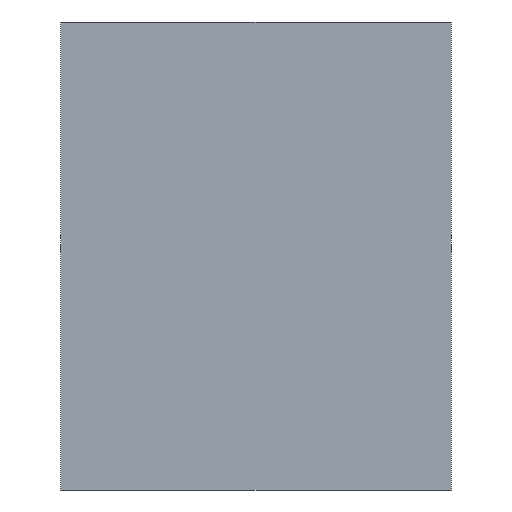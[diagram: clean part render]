
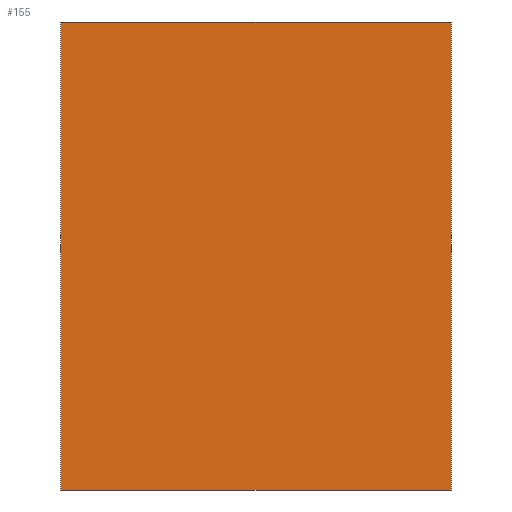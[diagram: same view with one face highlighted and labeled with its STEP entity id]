
A CAD part, front view. The second image highlights one B-rep face of the part: STEP entity #155.
In plain terms, the highlighted planar face has unit normal (0, -1, 0).
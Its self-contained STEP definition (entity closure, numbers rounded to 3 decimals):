
#39 = EDGE_CURVE('',#40,#42,#44,.T.);
#40 = VERTEX_POINT('',#41);
#41 = CARTESIAN_POINT('',(-19.,-33.9,23.75));
#42 = VERTEX_POINT('',#43);
#43 = CARTESIAN_POINT('',(-19.,-33.9,69.25));
#44 = SURFACE_CURVE('',#45,(#49,#61),.PCURVE_S1.);
#45 = LINE('',#46,#47);
#46 = CARTESIAN_POINT('',(-19.,-33.9,23.75));
#47 = VECTOR('',#48,1.);
#48 = DIRECTION('',(0.,0.,1.));
#49 = PCURVE('',#50,#55);
#50 = PLANE('',#51);
#51 = AXIS2_PLACEMENT_3D('',#52,#53,#54);
#52 = CARTESIAN_POINT('',(-19.,-33.9,23.75));
#53 = DIRECTION('',(1.,0.,0.));
#54 = DIRECTION('',(0.,0.,1.));
#55 = DEFINITIONAL_REPRESENTATION('',(#56),#60);
#56 = LINE('',#57,#58);
#57 = CARTESIAN_POINT('',(0.,0.));
#58 = VECTOR('',#59,1.);
#59 = DIRECTION('',(1.,0.));
#60 = ( GEOMETRIC_REPRESENTATION_CONTEXT(2) 
PARAMETRIC_REPRESENTATION_CONTEXT() REPRESENTATION_CONTEXT('2D SPACE',''
  ) );
#61 = PCURVE('',#62,#67);
#62 = PLANE('',#63);
#63 = AXIS2_PLACEMENT_3D('',#64,#65,#66);
#64 = CARTESIAN_POINT('',(-19.,-33.9,23.75));
#65 = DIRECTION('',(0.,1.,0.));
#66 = DIRECTION('',(0.,0.,1.));
#67 = DEFINITIONAL_REPRESENTATION('',(#68),#72);
#68 = LINE('',#69,#70);
#69 = CARTESIAN_POINT('',(0.,0.));
#70 = VECTOR('',#71,1.);
#71 = DIRECTION('',(1.,0.));
#72 = ( GEOMETRIC_REPRESENTATION_CONTEXT(2) 
PARAMETRIC_REPRESENTATION_CONTEXT() REPRESENTATION_CONTEXT('2D SPACE',''
  ) );
#90 = PLANE('',#91);
#91 = AXIS2_PLACEMENT_3D('',#92,#93,#94);
#92 = CARTESIAN_POINT('',(-19.,-33.9,23.75));
#93 = DIRECTION('',(0.,0.,1.));
#94 = DIRECTION('',(1.,0.,0.));
#144 = PLANE('',#145);
#145 = AXIS2_PLACEMENT_3D('',#146,#147,#148);
#146 = CARTESIAN_POINT('',(-19.,-33.9,69.25));
#147 = DIRECTION('',(0.,0.,1.));
#148 = DIRECTION('',(1.,0.,0.));
#155 = ADVANCED_FACE('',(#156),#62,.F.);
#156 = FACE_BOUND('',#157,.F.);
#157 = EDGE_LOOP('',(#158,#181,#182,#205));
#158 = ORIENTED_EDGE('',*,*,#159,.F.);
#159 = EDGE_CURVE('',#40,#160,#162,.T.);
#160 = VERTEX_POINT('',#161);
#161 = CARTESIAN_POINT('',(19.,-33.9,23.75));
#162 = SURFACE_CURVE('',#163,(#167,#174),.PCURVE_S1.);
#163 = LINE('',#164,#165);
#164 = CARTESIAN_POINT('',(-19.,-33.9,23.75));
#165 = VECTOR('',#166,1.);
#166 = DIRECTION('',(1.,0.,0.));
#167 = PCURVE('',#62,#168);
#168 = DEFINITIONAL_REPRESENTATION('',(#169),#173);
#169 = LINE('',#170,#171);
#170 = CARTESIAN_POINT('',(0.,0.));
#171 = VECTOR('',#172,1.);
#172 = DIRECTION('',(0.,1.));
#173 = ( GEOMETRIC_REPRESENTATION_CONTEXT(2) 
PARAMETRIC_REPRESENTATION_CONTEXT() REPRESENTATION_CONTEXT('2D SPACE',''
  ) );
#174 = PCURVE('',#90,#175);
#175 = DEFINITIONAL_REPRESENTATION('',(#176),#180);
#176 = LINE('',#177,#178);
#177 = CARTESIAN_POINT('',(0.,0.));
#178 = VECTOR('',#179,1.);
#179 = DIRECTION('',(1.,0.));
#180 = ( GEOMETRIC_REPRESENTATION_CONTEXT(2) 
PARAMETRIC_REPRESENTATION_CONTEXT() REPRESENTATION_CONTEXT('2D SPACE',''
  ) );
#181 = ORIENTED_EDGE('',*,*,#39,.T.);
#182 = ORIENTED_EDGE('',*,*,#183,.T.);
#183 = EDGE_CURVE('',#42,#184,#186,.T.);
#184 = VERTEX_POINT('',#185);
#185 = CARTESIAN_POINT('',(19.,-33.9,69.25));
#186 = SURFACE_CURVE('',#187,(#191,#198),.PCURVE_S1.);
#187 = LINE('',#188,#189);
#188 = CARTESIAN_POINT('',(-19.,-33.9,69.25));
#189 = VECTOR('',#190,1.);
#190 = DIRECTION('',(1.,0.,0.));
#191 = PCURVE('',#62,#192);
#192 = DEFINITIONAL_REPRESENTATION('',(#193),#197);
#193 = LINE('',#194,#195);
#194 = CARTESIAN_POINT('',(45.5,0.));
#195 = VECTOR('',#196,1.);
#196 = DIRECTION('',(0.,1.));
#197 = ( GEOMETRIC_REPRESENTATION_CONTEXT(2) 
PARAMETRIC_REPRESENTATION_CONTEXT() REPRESENTATION_CONTEXT('2D SPACE',''
  ) );
#198 = PCURVE('',#144,#199);
#199 = DEFINITIONAL_REPRESENTATION('',(#200),#204);
#200 = LINE('',#201,#202);
#201 = CARTESIAN_POINT('',(0.,0.));
#202 = VECTOR('',#203,1.);
#203 = DIRECTION('',(1.,0.));
#204 = ( GEOMETRIC_REPRESENTATION_CONTEXT(2) 
PARAMETRIC_REPRESENTATION_CONTEXT() REPRESENTATION_CONTEXT('2D SPACE',''
  ) );
#205 = ORIENTED_EDGE('',*,*,#206,.F.);
#206 = EDGE_CURVE('',#160,#184,#207,.T.);
#207 = SURFACE_CURVE('',#208,(#212,#219),.PCURVE_S1.);
#208 = LINE('',#209,#210);
#209 = CARTESIAN_POINT('',(19.,-33.9,23.75));
#210 = VECTOR('',#211,1.);
#211 = DIRECTION('',(0.,0.,1.));
#212 = PCURVE('',#62,#213);
#213 = DEFINITIONAL_REPRESENTATION('',(#214),#218);
#214 = LINE('',#215,#216);
#215 = CARTESIAN_POINT('',(0.,38.));
#216 = VECTOR('',#217,1.);
#217 = DIRECTION('',(1.,0.));
#218 = ( GEOMETRIC_REPRESENTATION_CONTEXT(2) 
PARAMETRIC_REPRESENTATION_CONTEXT() REPRESENTATION_CONTEXT('2D SPACE',''
  ) );
#219 = PCURVE('',#220,#225);
#220 = PLANE('',#221);
#221 = AXIS2_PLACEMENT_3D('',#222,#223,#224);
#222 = CARTESIAN_POINT('',(19.,-33.9,23.75));
#223 = DIRECTION('',(1.,0.,0.));
#224 = DIRECTION('',(0.,0.,1.));
#225 = DEFINITIONAL_REPRESENTATION('',(#226),#230);
#226 = LINE('',#227,#228);
#227 = CARTESIAN_POINT('',(0.,0.));
#228 = VECTOR('',#229,1.);
#229 = DIRECTION('',(1.,0.));
#230 = ( GEOMETRIC_REPRESENTATION_CONTEXT(2) 
PARAMETRIC_REPRESENTATION_CONTEXT() REPRESENTATION_CONTEXT('2D SPACE',''
  ) );
